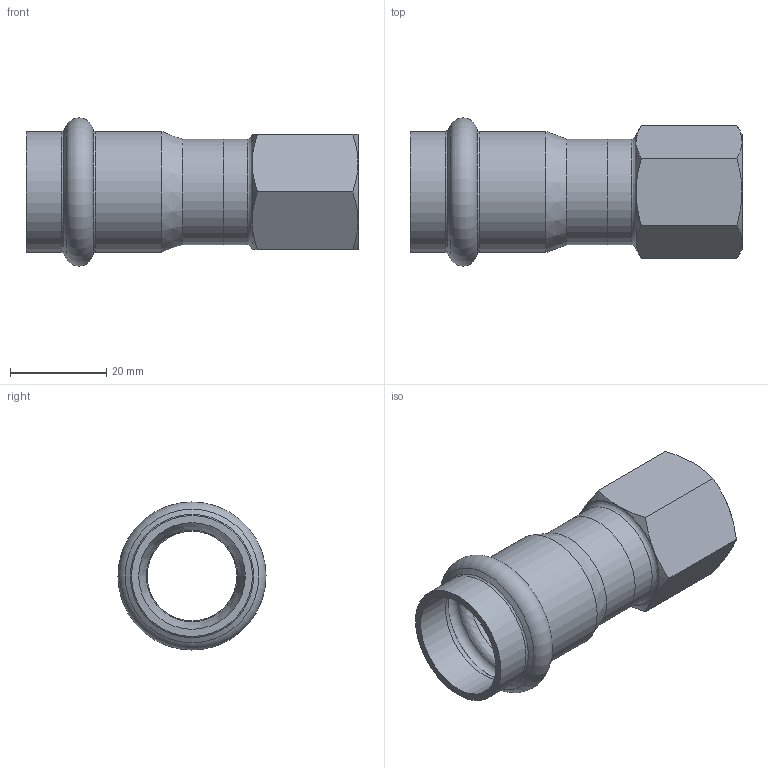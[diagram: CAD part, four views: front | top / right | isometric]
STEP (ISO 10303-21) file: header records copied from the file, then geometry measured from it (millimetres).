
FILE_DESCRIPTION((''),'2;1');
FILE_NAME('G:\Nirosan-Schmiedefeld\Technics\CAD\001 Serie 9.000\022\69270G2212H(3).stp','2018-08-28T08:56:21',('herberg'),(''),'Autodesk Inventor 2009','Autodesk Inventor 2009','');
FILE_SCHEMA(('AUTOMOTIVE_DESIGN { 1 0 10303 214 1 1 1 1 }'));
Length unit declared in the file: millimetre
Products named in the file (3): 69270G2212H(3); 69HM22P(1); IG2212(1)
Assembly tree (2 placements, depth 2):
  69270G2212H(3)
    69HM22P(1)
    IG2212(1)
Bounding box: 69 x 30.79 x 30.79 mm (x, y, z)
Volume: 10342.2 mm3; surface area: 10942.9 mm2
Topology: 2 solids, 2 shells, 44 faces, 91 edges, 52 vertices
Faces by surface type: cone 17, plane 10, bspline 8, cylinder 7, torus 2
Full cylindrical faces by diameter (mm): 19 x1, 22 x2, 22.15 x2, 25.15 x2
Entity records: 1304 total; most frequent: CARTESIAN_POINT 470, DIRECTION 162, ORIENTED_EDGE 134, AXIS2_PLACEMENT_3D 78, EDGE_LOOP 70, EDGE_CURVE 67, VERTEX_POINT 49, FACE_OUTER_BOUND 44
